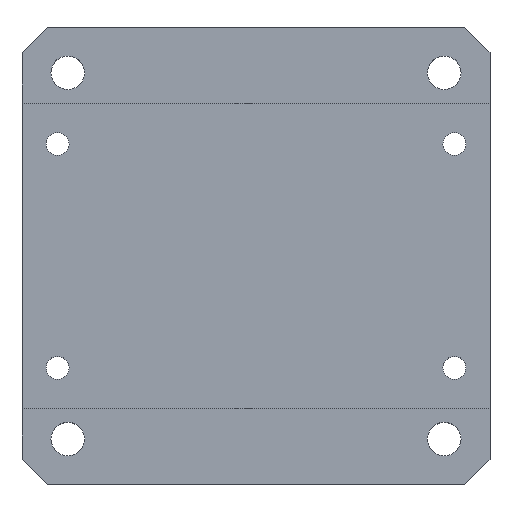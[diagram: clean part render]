
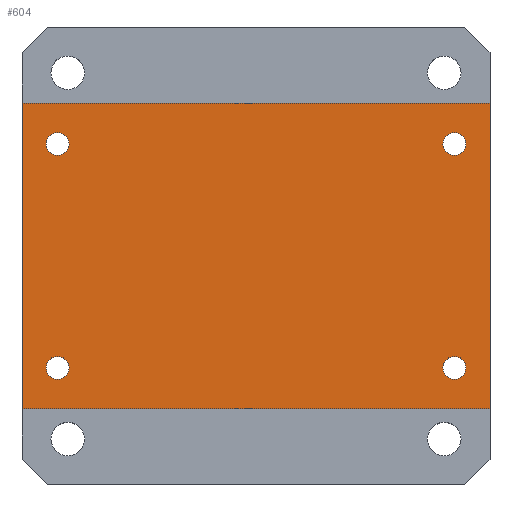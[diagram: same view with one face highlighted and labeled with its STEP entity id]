
A CAD part, top view. The second image highlights one B-rep face of the part: STEP entity #604.
In plain terms, the highlighted planar face has unit normal (0, 0, 1).
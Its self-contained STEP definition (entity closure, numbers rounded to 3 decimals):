
#36=LINE('',#927,#84);
#53=LINE('',#964,#101);
#60=LINE('',#989,#108);
#62=LINE('',#992,#110);
#84=VECTOR('',#760,60.);
#101=VECTOR('',#787,60.);
#108=VECTOR('',#822,92.);
#110=VECTOR('',#826,92.);
#149=FACE_BOUND('',#247,.T.);
#150=FACE_BOUND('',#248,.T.);
#151=FACE_BOUND('',#249,.T.);
#152=FACE_BOUND('',#250,.T.);
#186=FACE_OUTER_BOUND('',#246,.T.);
#246=EDGE_LOOP('',(#531,#532,#533,#534));
#247=EDGE_LOOP('',(#535));
#248=EDGE_LOOP('',(#536));
#249=EDGE_LOOP('',(#537));
#250=EDGE_LOOP('',(#538));
#258=CIRCLE('',#615,2.25);
#262=CIRCLE('',#622,2.25);
#266=CIRCLE('',#629,2.25);
#270=CIRCLE('',#636,2.25);
#282=VERTEX_POINT('',#843);
#286=VERTEX_POINT('',#854);
#290=VERTEX_POINT('',#865);
#294=VERTEX_POINT('',#876);
#314=VERTEX_POINT('',#924);
#315=VERTEX_POINT('',#926);
#329=VERTEX_POINT('',#961);
#330=VERTEX_POINT('',#963);
#338=EDGE_CURVE('',#282,#282,#258,.T.);
#342=EDGE_CURVE('',#286,#286,#262,.T.);
#346=EDGE_CURVE('',#290,#290,#266,.T.);
#350=EDGE_CURVE('',#294,#294,#270,.T.);
#374=EDGE_CURVE('',#314,#315,#36,.T.);
#393=EDGE_CURVE('',#329,#330,#53,.T.);
#404=EDGE_CURVE('',#314,#330,#60,.T.);
#406=EDGE_CURVE('',#315,#329,#62,.T.);
#531=ORIENTED_EDGE('',*,*,#393,.F.);
#532=ORIENTED_EDGE('',*,*,#406,.F.);
#533=ORIENTED_EDGE('',*,*,#374,.F.);
#534=ORIENTED_EDGE('',*,*,#404,.T.);
#535=ORIENTED_EDGE('',*,*,#338,.T.);
#536=ORIENTED_EDGE('',*,*,#342,.T.);
#537=ORIENTED_EDGE('',*,*,#346,.T.);
#538=ORIENTED_EDGE('',*,*,#350,.T.);
#570=PLANE('',#664);
#604=ADVANCED_FACE('',(#186,#149,#150,#151,#152),#570,.F.);
#615=AXIS2_PLACEMENT_3D('',#844,#681,#682);
#622=AXIS2_PLACEMENT_3D('',#855,#695,#696);
#629=AXIS2_PLACEMENT_3D('',#866,#709,#710);
#636=AXIS2_PLACEMENT_3D('',#877,#723,#724);
#664=AXIS2_PLACEMENT_3D('',#993,#827,#828);
#681=DIRECTION('center_axis',(0.,0.,-1.));
#682=DIRECTION('ref_axis',(-1.,0.,0.));
#695=DIRECTION('center_axis',(0.,0.,-1.));
#696=DIRECTION('ref_axis',(-1.,0.,0.));
#709=DIRECTION('center_axis',(0.,0.,-1.));
#710=DIRECTION('ref_axis',(-1.,0.,0.));
#723=DIRECTION('center_axis',(0.,0.,-1.));
#724=DIRECTION('ref_axis',(-1.,0.,0.));
#760=DIRECTION('',(0.,-1.,0.));
#787=DIRECTION('',(0.,1.,0.));
#822=DIRECTION('',(-1.,0.,0.));
#826=DIRECTION('',(-1.,0.,0.));
#827=DIRECTION('center_axis',(0.,0.,-1.));
#828=DIRECTION('ref_axis',(0.,-1.,0.));
#843=CARTESIAN_POINT('',(41.25,22.,9.));
#844=CARTESIAN_POINT('Origin',(39.,22.,9.));
#854=CARTESIAN_POINT('',(-36.75,-22.,9.));
#855=CARTESIAN_POINT('Origin',(-39.,-22.,9.));
#865=CARTESIAN_POINT('',(41.25,-22.,9.));
#866=CARTESIAN_POINT('Origin',(39.,-22.,9.));
#876=CARTESIAN_POINT('',(-36.75,22.,9.));
#877=CARTESIAN_POINT('Origin',(-39.,22.,9.));
#924=CARTESIAN_POINT('',(46.,30.,9.));
#926=CARTESIAN_POINT('',(46.,-30.,9.));
#927=CARTESIAN_POINT('',(46.,-7.5,9.));
#961=CARTESIAN_POINT('',(-46.,-30.,9.));
#963=CARTESIAN_POINT('',(-46.,30.,9.));
#964=CARTESIAN_POINT('',(-46.,37.5,9.));
#989=CARTESIAN_POINT('',(46.,30.,9.));
#992=CARTESIAN_POINT('',(46.,-30.,9.));
#993=CARTESIAN_POINT('Origin',(46.,30.,9.));
